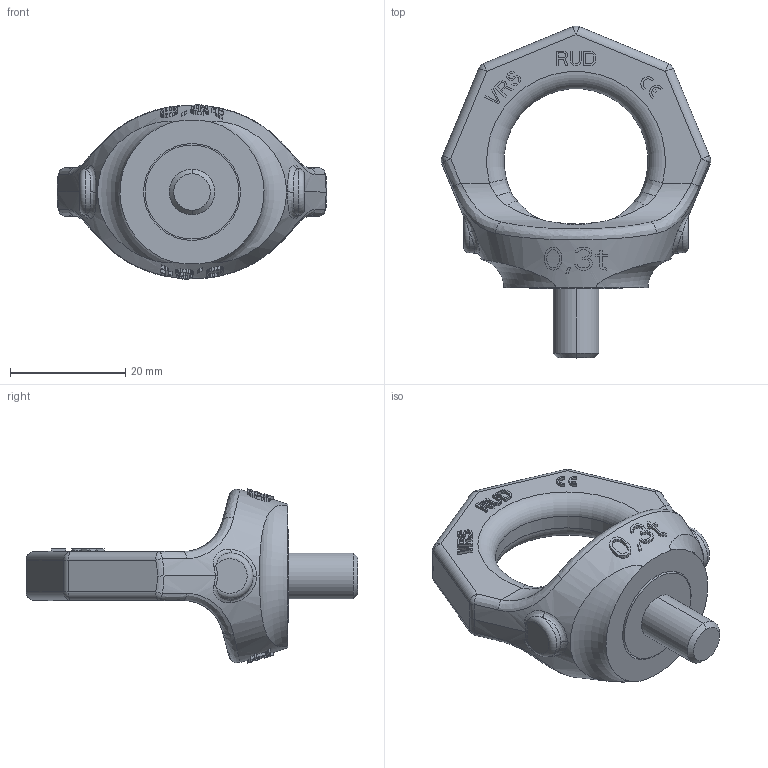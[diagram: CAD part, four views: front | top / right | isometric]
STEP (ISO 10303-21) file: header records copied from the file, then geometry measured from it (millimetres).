
FILE_DESCRIPTION((''),'2;1');
FILE_NAME('001-M35708-P-1_ASM','2025-10-02T15:17:06',('Andreas.Wendler'),(''),'CREO PARAMETRIC BY PTC INC, 2024273','CREO PARAMETRIC BY PTC INC, 2024273','');
FILE_SCHEMA(('AP242_MANAGED_MODEL_BASED_3D_ENGINEERING_MIM_LF { 1 0 10303 442 1 1 4 }'));
Length unit declared in the file: millimetre
Products named in the file (5): 001-M35304-P-1; S235JRG2; 001-M35708-P-1; ST37; 001-M35708-P-1_ASM
Assembly tree (2 placements, depth 2):
  S235JRG2
  ST37
  001-M35708-P-1_ASM
    001-M35304-P-1
    001-M35708-P-1
Bounding box: 46.73 x 57.57 x 30.26 mm (x, y, z)
Volume: 14388.3 mm3; surface area: 6829.4 mm2
Topology: 2 solids, 2 shells, 697 faces, 1920 edges, 1256 vertices
Faces by surface type: plane 580, bspline 56, cylinder 41, sphere 10, torus 8, cone 2
Entity records: 26957 total; most frequent: CARTESIAN_POINT 9128, ORIENTED_EDGE 3840, DIRECTION 2708, EDGE_CURVE 1920, VERTEX_POINT 1256, VECTOR 1196, LINE 1196, AXIS2_PLACEMENT_3D 756
